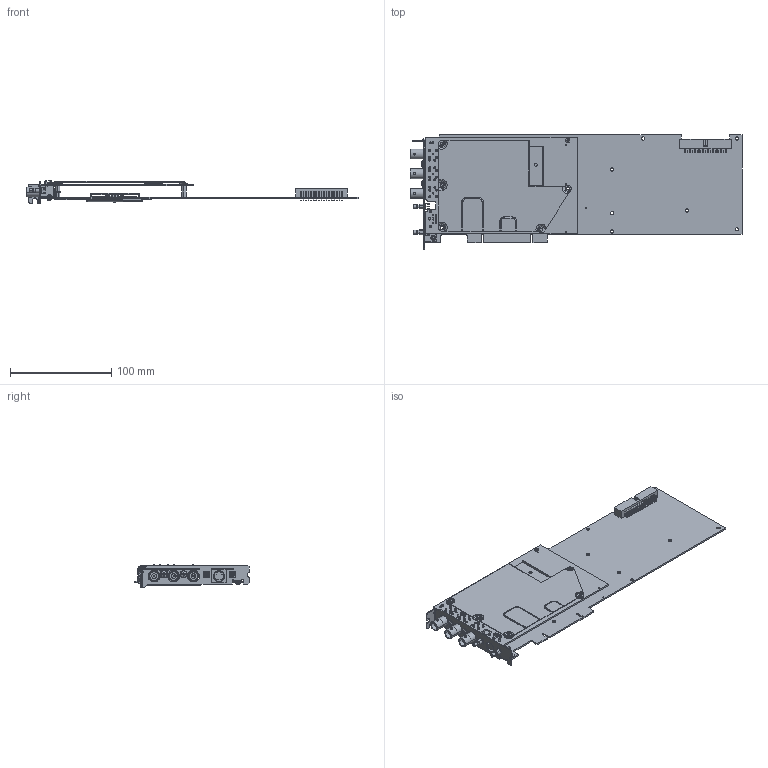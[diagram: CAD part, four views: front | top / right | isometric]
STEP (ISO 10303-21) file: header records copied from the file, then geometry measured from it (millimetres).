
FILE_DESCRIPTION((''),'2;1');
FILE_NAME('CU_PCI-5122','2009-12-03T',('jjorden'),(''),'PRO/ENGINEER BY PARAMETRIC TECHNOLOGY CORPORATION, 2006080','PRO/ENGINEER BY PARAMETRIC TECHNOLOGY CORPORATION, 2006080','');
FILE_SCHEMA(('CONFIG_CONTROL_DESIGN'));
Products named in the file (1): CU_PCI-5122
Bounding box: 327.56 x 112.88 x 22.6 mm (x, y, z)
Volume: 92197.7 mm3; surface area: 136911.1 mm2
Topology: 3 solids, 3 shells, 2174 faces, 5823 edges, 3665 vertices
Faces by surface type: plane 1182, cylinder 793, bspline 121, torus 46, cone 18, sphere 14
Entity records: 74474 total; most frequent: CARTESIAN_POINT 19368, ORIENTED_EDGE 11446, DIRECTION 11225, EDGE_CURVE 5723, AXIS2_PLACEMENT_3D 3828, VERTEX_POINT 3760, VECTOR 3569, LINE 3569
